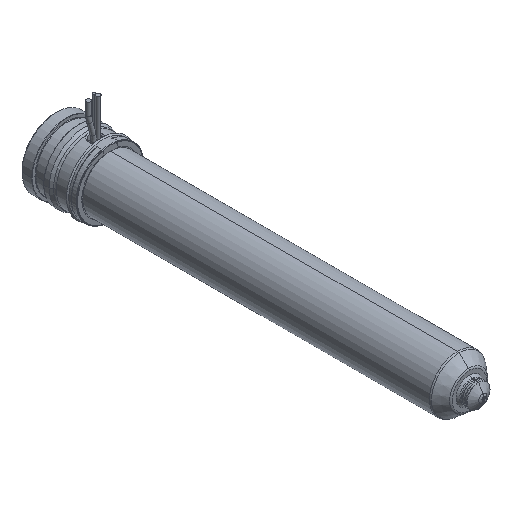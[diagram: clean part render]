
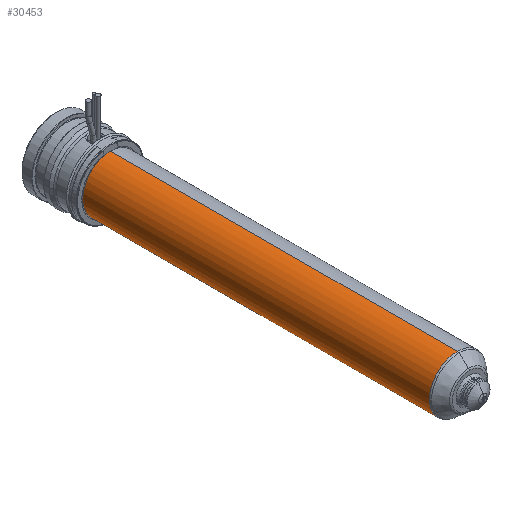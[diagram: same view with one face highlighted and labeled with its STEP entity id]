
A CAD part, isometric view. The second image highlights one B-rep face of the part: STEP entity #30453.
In plain terms, the highlighted cylindrical face has radius 12 mm (diameter 24 mm), a partial arc.
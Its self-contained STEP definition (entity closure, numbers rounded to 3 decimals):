
#29844=CARTESIAN_POINT('',(0.,-173.736,0.));
#29845=DIRECTION('',(0.,-1.,0.));
#29846=DIRECTION('',(0.,0.,1.));
#29847=AXIS2_PLACEMENT_3D('',#29844,#29845,#29846);
#29852=CARTESIAN_POINT('',(0.,-24.,0.));
#29853=DIRECTION('',(0.,1.,0.));
#29854=DIRECTION('',(0.,0.,-1.));
#29855=AXIS2_PLACEMENT_3D('',#29852,#29853,#29854);
#29860=DIRECTION('',(0.,1.,0.));
#29861=VECTOR('',#29860,149.736);
#29862=CARTESIAN_POINT('',(0.,-173.736,12.));
#29863=LINE('',#29862,#29861);
#29875=DIRECTION('',(0.,1.,0.));
#29876=VECTOR('',#29875,149.736);
#29877=CARTESIAN_POINT('',(0.,-173.736,-12.));
#29878=LINE('',#29877,#29876);
#30058=CARTESIAN_POINT('',(0.,-173.736,12.));
#30059=CARTESIAN_POINT('',(0.,-24.,12.));
#30060=VERTEX_POINT('',#30058);
#30061=VERTEX_POINT('',#30059);
#30062=CARTESIAN_POINT('',(0.,-173.736,-12.));
#30063=CARTESIAN_POINT('',(0.,-24.,-12.));
#30064=VERTEX_POINT('',#30062);
#30065=VERTEX_POINT('',#30063);
#30439=CARTESIAN_POINT('',(0.,-11.7,0.));
#30440=DIRECTION('',(0.,-1.,0.));
#30441=DIRECTION('',(0.,0.,1.));
#30442=AXIS2_PLACEMENT_3D('',#30439,#30440,#30441);
#30443=CYLINDRICAL_SURFACE('',#30442,12.);
#30445=ORIENTED_EDGE('',*,*,#30444,.F.);
#30446=ORIENTED_EDGE('',*,*,#30434,.T.);
#30448=ORIENTED_EDGE('',*,*,#30447,.T.);
#30450=ORIENTED_EDGE('',*,*,#30449,.T.);
#30451=EDGE_LOOP('',(#30445,#30446,#30448,#30450));
#30452=FACE_OUTER_BOUND('',#30451,.F.);
#30453=ADVANCED_FACE('',(#30452),#30443,.T.);
#29848=CIRCLE('',#29847,12.);
#29856=CIRCLE('',#29855,12.);
#30434=EDGE_CURVE('',#30060,#30064,#29848,.T.);
#30444=EDGE_CURVE('',#30060,#30061,#29863,.T.);
#30447=EDGE_CURVE('',#30064,#30065,#29878,.T.);
#30449=EDGE_CURVE('',#30065,#30061,#29856,.T.);
